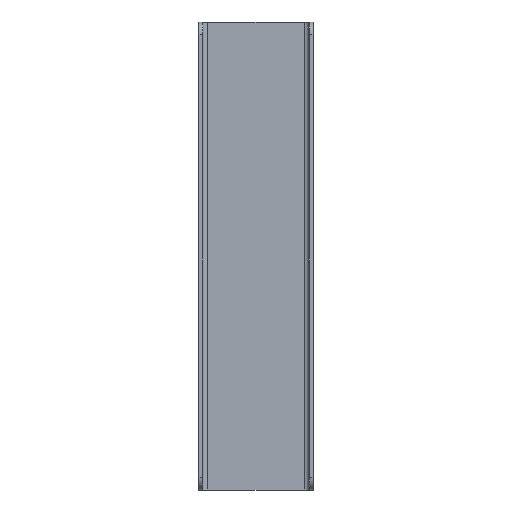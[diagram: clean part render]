
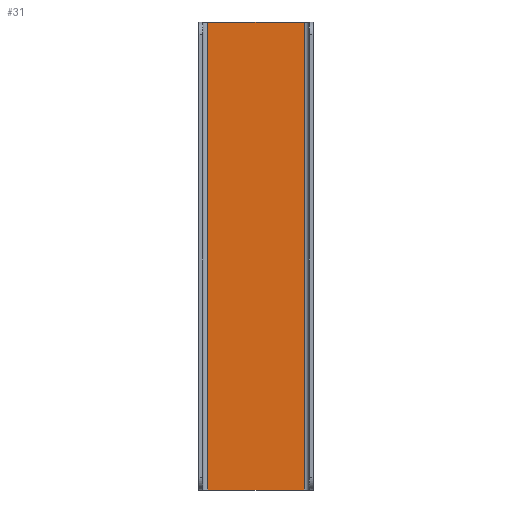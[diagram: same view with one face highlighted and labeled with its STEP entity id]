
A CAD part, left-side view. The second image highlights one B-rep face of the part: STEP entity #31.
In plain terms, the highlighted planar face has unit normal (-1, 0, 0).
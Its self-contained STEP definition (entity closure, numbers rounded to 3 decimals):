
#31=ADVANCED_FACE('',(#81),#892,.T.);
#81=FACE_OUTER_BOUND('',#131,.T.);
#131=EDGE_LOOP('',(#208,#209,#210,#211));
#208=ORIENTED_EDGE('',*,*,#487,.T.);
#209=ORIENTED_EDGE('',*,*,#488,.T.);
#210=ORIENTED_EDGE('',*,*,#485,.F.);
#211=ORIENTED_EDGE('',*,*,#489,.F.);
#485=EDGE_CURVE('',#779,#773,#674,.T.);
#487=EDGE_CURVE('',#787,#780,#676,.T.);
#488=EDGE_CURVE('',#780,#773,#677,.T.);
#489=EDGE_CURVE('',#787,#779,#678,.T.);
#674=(
BOUNDED_CURVE()
B_SPLINE_CURVE(2,(#1261,#1262,#1263),.UNSPECIFIED.,.F.,.F.)
B_SPLINE_CURVE_WITH_KNOTS((3,3),(26.642,63.642),
 .UNSPECIFIED.)
CURVE()
GEOMETRIC_REPRESENTATION_ITEM()
RATIONAL_B_SPLINE_CURVE((1.,1.,1.))
REPRESENTATION_ITEM('')
);
#676=(
BOUNDED_CURVE()
B_SPLINE_CURVE(2,(#1267,#1268,#1269),.UNSPECIFIED.,.F.,.F.)
B_SPLINE_CURVE_WITH_KNOTS((3,3),(26.642,63.642),
 .UNSPECIFIED.)
CURVE()
GEOMETRIC_REPRESENTATION_ITEM()
RATIONAL_B_SPLINE_CURVE((1.,1.,1.))
REPRESENTATION_ITEM('')
);
#677=(
BOUNDED_CURVE()
B_SPLINE_CURVE(1,(#1270,#1271),.UNSPECIFIED.,.F.,.F.)
B_SPLINE_CURVE_WITH_KNOTS((2,2),(0.,180.),.UNSPECIFIED.)
CURVE()
GEOMETRIC_REPRESENTATION_ITEM()
RATIONAL_B_SPLINE_CURVE((1.,1.))
REPRESENTATION_ITEM('')
);
#678=(
BOUNDED_CURVE()
B_SPLINE_CURVE(1,(#1272,#1273),.UNSPECIFIED.,.F.,.F.)
B_SPLINE_CURVE_WITH_KNOTS((2,2),(0.,180.),.UNSPECIFIED.)
CURVE()
GEOMETRIC_REPRESENTATION_ITEM()
RATIONAL_B_SPLINE_CURVE((1.,1.))
REPRESENTATION_ITEM('')
);
#773=VERTEX_POINT('',#1163);
#779=VERTEX_POINT('',#1169);
#780=VERTEX_POINT('',#1170);
#787=VERTEX_POINT('',#1177);
#892=PLANE('',#1006);
#1006=AXIS2_PLACEMENT_3D('',#1112,#1059,$);
#1059=DIRECTION('',(-1.,0.,0.));
#1112=CARTESIAN_POINT('',(15.89,18.5,0.));
#1163=CARTESIAN_POINT('',(15.89,-18.5,180.));
#1169=CARTESIAN_POINT('',(15.89,18.5,180.));
#1170=CARTESIAN_POINT('',(15.89,-18.5,0.));
#1177=CARTESIAN_POINT('',(15.89,18.5,0.));
#1261=CARTESIAN_POINT('',(15.89,18.5,180.));
#1262=CARTESIAN_POINT('',(15.89,0.,180.));
#1263=CARTESIAN_POINT('',(15.89,-18.5,180.));
#1267=CARTESIAN_POINT('',(15.89,18.5,0.));
#1268=CARTESIAN_POINT('',(15.89,0.,0.));
#1269=CARTESIAN_POINT('',(15.89,-18.5,0.));
#1270=CARTESIAN_POINT('',(15.89,-18.5,0.));
#1271=CARTESIAN_POINT('',(15.89,-18.5,180.));
#1272=CARTESIAN_POINT('',(15.89,18.5,0.));
#1273=CARTESIAN_POINT('',(15.89,18.5,180.));
